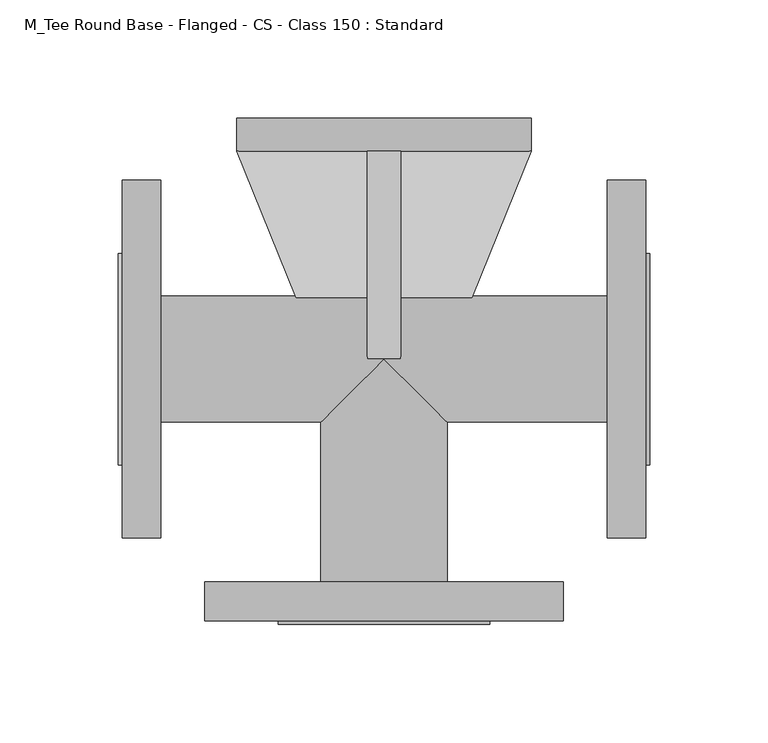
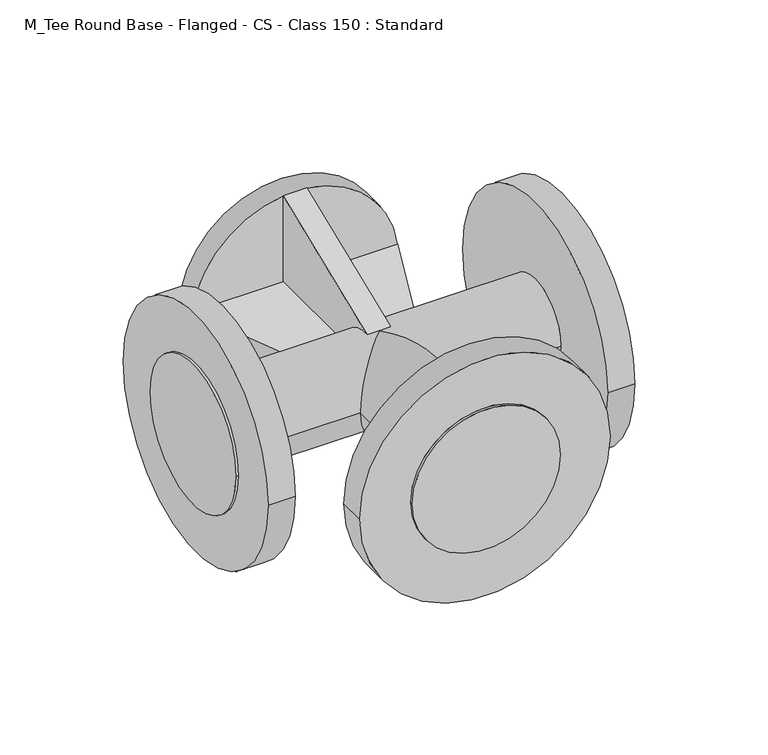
"""IFC4 building model written with IfcOpenShell, lengths in millimetres: pipe fitting geometry, M_Tee Round Base - Flanged - CS - Class 150 : Standard."""

from ifc_helpers import new_model, si_unit, frame, origin, place, context, project, spatial, circle_curve, ellipse_curve, source, transform, mapped, element, save
from ifc_brep_helpers import plane_surface, cylinder_surface, advanced_brep


def m_tee_round_base_flanged_cs_class_150_standard_ab36f383(model_context):
    return source(origin(), model_context, "Body", "AdvancedBrep", [
        advanced_brep(
        [(94.284375, -26.6988281, 0.0), (94.284375, 26.6988281, 0.0), (37.4728021, 26.6988281, 0.0), (37.0959493, 25.7649547, 6.9996094), (6.9996094, 25.7649547, 6.9996094), (6.9996094, 0.0, 26.6988281), (0.0, 0.0, 26.6988281), (26.6988281, -26.6988281, 0.0), (0.0, 0.0, -26.6988281), (6.9996094, 0.0, -26.6988281), (6.9996094, 25.7649547, -6.9996094), (37.0959493, 25.7649547, -6.9996094), (-94.284375, 26.6988281, 0.0), (-94.284375, -26.6988281, 0.0), (-26.6988281, -26.6988281, 0.0), (-6.9996094, 0.0, 26.6988281), (-6.9996094, 25.7649547, 6.9996094), (-37.0959493, 25.7649547, 6.9996094), (-37.4728021, 26.6988281, 0.0), (-37.0959493, 25.7649547, -6.9996094), (-6.9996094, 25.7649547, -6.9996094), (-6.9996094, 0.0, -26.6988281), (-110.6710937, -75.6433594, 0.0), (-110.6710937, 75.6433594, 0.0), (-110.6710937, 44.6714844, 0.0), (-110.6710937, -44.6714844, 0.0), (-94.284375, -75.6433594, 0.0), (-94.284375, 75.6433594, 0.0), (94.284375, -75.6433594, 0.0), (94.284375, 75.6433594, 0.0), (110.6710937, -75.6433594, 0.0), (110.6710937, 75.6433594, 0.0), (110.6710937, -44.6714844, 0.0), (110.6710937, 44.6714844, 0.0), (-112.2585937, 44.6714844, 0.0), (-112.2585937, -44.6714844, 0.0), (112.2585938, -44.6714844, 0.0), (112.2585938, 44.6714844, 0.0), (26.6988281, -94.284375, 0.0), (-26.6988281, -94.284375, 0.0), (-75.6433594, -94.284375, 0.0), (75.6433594, -94.284375, 0.0), (-75.6433594, -110.6710938, 0.0), (75.6433594, -110.6710938, 0.0), (-44.6714844, -110.6710938, 0.0), (44.6714844, -110.6710938, 0.0), (-44.6714844, -112.2585938, 0.0), (44.6714844, -112.2585938, 0.0), (-62.1347656, 87.8132812, 6.9996094), (-6.9996094, 87.8132812, 6.9996094), (-61.7392466, 87.8132812, 6.9996094), (62.1347656, 87.8132812, 6.9996094), (61.7392466, 87.8132812, 6.9996094), (6.9996094, 87.8132812, 6.9996094), (62.1347656, 87.8132812, -6.9996094), (6.9996094, 87.8132812, -6.9996094), (61.7392466, 87.8132812, -6.9996094), (-62.1347656, 87.8132812, -6.9996094), (-61.7392466, 87.8132812, -6.9996094), (-6.9996094, 87.8132812, -6.9996094), (-62.1347656, 87.8132812, 0.0), (62.1347656, 87.8132812, 0.0), (6.9996094, 87.8132812, -62.1347656), (0.0, 87.8132812, -62.1347656), (6.9996094, 87.8132812, -61.7392466), (-6.9996094, 87.8132812, -62.1347656), (-6.9996094, 87.8132812, -61.7392466), (6.9996094, 87.8132812, 62.1347656), (6.9996094, 87.8132812, 61.7392466), (0.0, 87.8132812, 62.1347656), (-6.9996094, 87.8132812, 61.7392466), (-6.9996094, 87.8132812, 62.1347656), (-62.1347656, 101.8125, 0.0), (62.1347656, 101.8125, 0.0)],
        [
            (0, 1, circle_curve(frame((94.284375, 0.0, 0.0), z_axis=(-1.0, 0.0, 0.0), x_axis=(0.0, 1.0, 0.0)), 26.6988281)),
            (1, 2),
            (2, 3, ellipse_curve(frame((26.6988281, 0.0, 0.0), z_axis=(0.9273412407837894, -0.37421681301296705, 0.0), x_axis=(-0.3742168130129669, -0.9273412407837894, 0.0)), 28.7907266, 26.6988281)),
            (3, 4),
            (4, 5, circle_curve(frame((6.9996094, 0.0, 0.0), z_axis=(1.0, 0.0, 0.0), x_axis=(0.0, 1.0, 0.0)), 26.6988281)),
            (5, 6),
            (6, 7, ellipse_curve(frame((0.0, 0.0, 0.0), z_axis=(0.7071067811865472, 0.7071067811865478, 0.0), x_axis=(-0.7071067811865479, 0.7071067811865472, 0.0)), 37.7578448, 26.6988281)),
            (7, 0),
            (1, 0, circle_curve(frame((94.284375, 0.0, 0.0), z_axis=(-1.0, 0.0, 0.0), x_axis=(0.0, 1.0, 0.0)), 26.6988281)),
            (7, 8, ellipse_curve(frame((0.0, 0.0, 0.0), z_axis=(0.7071067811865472, 0.7071067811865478, 0.0), x_axis=(-0.7071067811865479, 0.7071067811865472, 0.0)), 37.7578448, 26.6988281)),
            (8, 9),
            (9, 10, circle_curve(frame((6.9996094, 0.0, 0.0), z_axis=(1.0, 0.0, 0.0), x_axis=(0.0, 1.0, 0.0)), 26.6988281)),
            (10, 11),
            (11, 2, ellipse_curve(frame((26.6988281, 0.0, 0.0), z_axis=(0.9273412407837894, -0.37421681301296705, 0.0), x_axis=(-0.3742168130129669, -0.9273412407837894, 0.0)), 28.7907266, 26.6988281)),
            (12, 13, circle_curve(frame((-94.284375, 0.0, 0.0), z_axis=(1.0, 0.0, 0.0), x_axis=(0.0, 1.0, 0.0)), 26.6988281)),
            (13, 14),
            (14, 6, ellipse_curve(frame((0.0, 0.0, 0.0), z_axis=(-0.7071067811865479, 0.7071067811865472, 0.0), x_axis=(-0.707106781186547, -0.7071067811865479, 0.0)), 37.7578448, 26.6988281)),
            (6, 15),
            (15, 16, circle_curve(frame((-6.9996094, 0.0, 0.0), z_axis=(-1.0, 0.0, 0.0), x_axis=(0.0, 1.0, 0.0)), 26.6988281)),
            (16, 17),
            (17, 18, ellipse_curve(frame((-26.6988281, 0.0, 0.0), z_axis=(-0.9273412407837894, -0.374216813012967, 0.0), x_axis=(-0.374216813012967, 0.9273412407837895, 0.0)), 28.7907266, 26.6988281)),
            (18, 12),
            (13, 12, circle_curve(frame((-94.284375, 0.0, 0.0), z_axis=(1.0, 0.0, 0.0), x_axis=(0.0, 1.0, 0.0)), 26.6988281)),
            (18, 19, ellipse_curve(frame((-26.6988281, 0.0, 0.0), z_axis=(-0.9273412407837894, -0.374216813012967, 0.0), x_axis=(-0.374216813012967, 0.9273412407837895, 0.0)), 28.7907266, 26.6988281)),
            (19, 20),
            (20, 21, circle_curve(frame((-6.9996094, 0.0, 0.0), z_axis=(-1.0, 0.0, 0.0), x_axis=(0.0, 1.0, 0.0)), 26.6988281)),
            (21, 8),
            (8, 14, ellipse_curve(frame((0.0, 0.0, 0.0), z_axis=(-0.7071067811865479, 0.7071067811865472, 0.0), x_axis=(-0.707106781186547, -0.7071067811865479, 0.0)), 37.7578448, 26.6988281)),
            (22, 23, circle_curve(frame((-110.6710937, 0.0, 0.0), z_axis=(-1.0, 0.0, 0.0), x_axis=(0.0, 1.0, 0.0)), 75.6433594)),
            (23, 22, circle_curve(frame((-110.6710937, 0.0, 0.0), z_axis=(-1.0, 0.0, 0.0), x_axis=(0.0, 1.0, 0.0)), 75.6433594)),
            (24, 25, circle_curve(frame((-110.6710937, 0.0, 0.0), z_axis=(1.0, 0.0, 0.0), x_axis=(0.0, -1.0, 0.0)), 44.6714844)),
            (25, 24, circle_curve(frame((-110.6710937, 0.0, 0.0), z_axis=(1.0, 0.0, 0.0), x_axis=(0.0, -1.0, 0.0)), 44.6714844)),
            (26, 27, circle_curve(frame((-94.284375, 0.0, 0.0), z_axis=(1.0, 0.0, 0.0), x_axis=(0.0, 1.0, 0.0)), 75.6433594)),
            (27, 26, circle_curve(frame((-94.284375, 0.0, 0.0), z_axis=(1.0, 0.0, 0.0), x_axis=(0.0, 1.0, 0.0)), 75.6433594)),
            (22, 26),
            (27, 23),
            (28, 29, circle_curve(frame((94.284375, 0.0, 0.0), z_axis=(-1.0, 0.0, 0.0), x_axis=(0.0, 1.0, 0.0)), 75.6433594)),
            (29, 28, circle_curve(frame((94.284375, 0.0, 0.0), z_axis=(-1.0, 0.0, 0.0), x_axis=(0.0, 1.0, 0.0)), 75.6433594)),
            (30, 31, circle_curve(frame((110.6710937, 0.0, 0.0), z_axis=(1.0, 0.0, 0.0), x_axis=(0.0, 1.0, 0.0)), 75.6433594)),
            (31, 30, circle_curve(frame((110.6710937, 0.0, 0.0), z_axis=(1.0, 0.0, 0.0), x_axis=(0.0, 1.0, 0.0)), 75.6433594)),
            (32, 33, circle_curve(frame((110.6710937, 0.0, 0.0), z_axis=(-1.0, 0.0, 0.0), x_axis=(0.0, 1.0, 0.0)), 44.6714844)),
            (33, 32, circle_curve(frame((110.6710937, 0.0, 0.0), z_axis=(-1.0, 0.0, 0.0), x_axis=(0.0, 1.0, 0.0)), 44.6714844)),
            (28, 30),
            (31, 29),
            (34, 35, circle_curve(frame((-112.2585937, 0.0, 0.0), z_axis=(-1.0, 0.0, 0.0), x_axis=(0.0, -1.0, 0.0)), 44.6714844)),
            (35, 34, circle_curve(frame((-112.2585937, 0.0, 0.0), z_axis=(-1.0, 0.0, 0.0), x_axis=(0.0, -1.0, 0.0)), 44.6714844)),
            (35, 25),
            (24, 34),
            (36, 37, circle_curve(frame((112.2585938, 0.0, 0.0), z_axis=(1.0, 0.0, 0.0), x_axis=(0.0, 1.0, 0.0)), 44.6714844)),
            (37, 36, circle_curve(frame((112.2585938, 0.0, 0.0), z_axis=(1.0, 0.0, 0.0), x_axis=(0.0, 1.0, 0.0)), 44.6714844)),
            (37, 33),
            (32, 36),
            (38, 7),
            (14, 39),
            (39, 38, circle_curve(frame((0.0, -94.284375, 0.0), z_axis=(0.0, 1.0, 0.0), x_axis=(1.0, 0.0, 0.0)), 26.6988281)),
            (38, 39, circle_curve(frame((0.0, -94.284375, 0.0), z_axis=(0.0, 1.0, 0.0), x_axis=(1.0, 0.0, 0.0)), 26.6988281)),
            (40, 41, circle_curve(frame((0.0, -94.284375, 0.0), z_axis=(0.0, 1.0, 0.0), x_axis=(1.0, 0.0, 0.0)), 75.6433594)),
            (41, 40, circle_curve(frame((0.0, -94.284375, 0.0), z_axis=(0.0, 1.0, 0.0), x_axis=(1.0, 0.0, 0.0)), 75.6433594)),
            (42, 43, circle_curve(frame((0.0, -110.6710938, 0.0), z_axis=(0.0, -1.0, 0.0), x_axis=(1.0, 0.0, 0.0)), 75.6433594)),
            (43, 42, circle_curve(frame((0.0, -110.6710938, 0.0), z_axis=(0.0, -1.0, 0.0), x_axis=(1.0, 0.0, 0.0)), 75.6433594)),
            (44, 45, circle_curve(frame((0.0, -110.6710938, 0.0), z_axis=(0.0, 1.0, 0.0), x_axis=(1.0, 0.0, 0.0)), 44.6714844)),
            (45, 44, circle_curve(frame((0.0, -110.6710938, 0.0), z_axis=(0.0, 1.0, 0.0), x_axis=(1.0, 0.0, 0.0)), 44.6714844)),
            (40, 42),
            (43, 41),
            (46, 47, circle_curve(frame((0.0, -112.2585938, 0.0), z_axis=(0.0, -1.0, 0.0), x_axis=(1.0, 0.0, 0.0)), 44.6714844)),
            (47, 46, circle_curve(frame((0.0, -112.2585938, 0.0), z_axis=(0.0, -1.0, 0.0), x_axis=(1.0, 0.0, 0.0)), 44.6714844)),
            (47, 45),
            (44, 46),
            (48, 17),
            (16, 49),
            (49, 50),
            (50, 48),
            (3, 51),
            (51, 52),
            (52, 53),
            (53, 4),
            (54, 11),
            (10, 55),
            (55, 56),
            (56, 54),
            (19, 57),
            (57, 58),
            (58, 59),
            (59, 20),
            (50, 60, circle_curve(frame((0.0, 87.8132812, 0.0), z_axis=(0.0, -1.0, 0.0), x_axis=(1.0, 0.0, 0.0)), 62.1347656)),
            (60, 48),
            (51, 61),
            (61, 52, circle_curve(frame((0.0, 87.8132812, 0.0), z_axis=(0.0, -1.0, 0.0), x_axis=(1.0, 0.0, 0.0)), 62.1347656)),
            (56, 61, circle_curve(frame((0.0, 87.8132812, 0.0), z_axis=(0.0, -1.0, 0.0), x_axis=(1.0, 0.0, 0.0)), 62.1347656)),
            (61, 54),
            (57, 60),
            (60, 58, circle_curve(frame((0.0, 87.8132812, 0.0), z_axis=(0.0, -1.0, 0.0), x_axis=(1.0, 0.0, 0.0)), 62.1347656)),
            (62, 63),
            (63, 64, circle_curve(frame((0.0, 87.8132812, 0.0), z_axis=(0.0, -1.0, 0.0), x_axis=(1.0, 0.0, 0.0)), 62.1347656)),
            (64, 62),
            (63, 65),
            (65, 66),
            (66, 63, circle_curve(frame((0.0, 87.8132812, 0.0), z_axis=(0.0, -1.0, 0.0), x_axis=(1.0, 0.0, 0.0)), 62.1347656)),
            (67, 68),
            (68, 69, circle_curve(frame((0.0, 87.8132812, 0.0), z_axis=(0.0, -1.0, 0.0), x_axis=(1.0, 0.0, 0.0)), 62.1347656)),
            (69, 67),
            (70, 71),
            (71, 69),
            (69, 70, circle_curve(frame((0.0, 87.8132812, 0.0), z_axis=(0.0, -1.0, 0.0), x_axis=(1.0, 0.0, 0.0)), 62.1347656)),
            (67, 5),
            (53, 68),
            (9, 62),
            (64, 55),
            (65, 21),
            (59, 66),
            (15, 71),
            (70, 49),
            (72, 73, circle_curve(frame((0.0, 101.8125, 0.0), z_axis=(0.0, 1.0, 0.0), x_axis=(1.0, 0.0, 0.0)), 62.1347656)),
            (73, 72, circle_curve(frame((0.0, 101.8125, 0.0), z_axis=(0.0, 1.0, 0.0), x_axis=(1.0, 0.0, 0.0)), 62.1347656)),
            (52, 68, circle_curve(frame((0.0, 87.8132812, 0.0), z_axis=(0.0, -1.0, 0.0), x_axis=(1.0, 0.0, 0.0)), 62.1347656)),
            (64, 56, circle_curve(frame((0.0, 87.8132812, 0.0), z_axis=(0.0, -1.0, 0.0), x_axis=(1.0, 0.0, 0.0)), 62.1347656)),
            (58, 66, circle_curve(frame((0.0, 87.8132812, 0.0), z_axis=(0.0, -1.0, 0.0), x_axis=(1.0, 0.0, 0.0)), 62.1347656)),
            (70, 50, circle_curve(frame((0.0, 87.8132812, 0.0), z_axis=(0.0, -1.0, 0.0), x_axis=(1.0, 0.0, 0.0)), 62.1347656)),
            (72, 60),
            (61, 73),
        ],
        [
            cylinder_surface(frame((0.0, 0.0, 0.0), z_axis=(-1.0, 0.0, 0.0), x_axis=(0.0, 1.0, 0.0)), 26.6988281),
            cylinder_surface(frame((-94.284375, 0.0, 0.0), z_axis=(-1.0, 0.0, 0.0), x_axis=(0.0, 1.0, 0.0)), 26.6988281),
            plane_surface(frame((-110.6710937, 0.0, 0.0), z_axis=(-1.0, 0.0, 0.0), x_axis=(0.0, 0.0, 1.0))),
            plane_surface(frame((-94.284375, 0.0, 0.0), z_axis=(1.0, 0.0, 0.0), x_axis=(0.0, 0.0, 1.0))),
            cylinder_surface(frame((-110.6710937, 0.0, 0.0), z_axis=(-1.0, 0.0, 0.0), x_axis=(0.0, 1.0, 0.0)), 75.6433594),
            plane_surface(frame((94.284375, 0.0, 0.0), z_axis=(-1.0, 0.0, 0.0), x_axis=(0.0, 0.0, 1.0))),
            plane_surface(frame((110.6710937, 0.0, 0.0), z_axis=(1.0, 0.0, 0.0), x_axis=(0.0, 0.0, 1.0))),
            cylinder_surface(frame((94.284375, 0.0, 0.0), z_axis=(-1.0, 0.0, 0.0), x_axis=(0.0, 1.0, 0.0)), 75.6433594),
            plane_surface(frame((-112.2585937, 0.0, 0.0), z_axis=(-1.0, 0.0, 0.0), x_axis=(0.0, 0.0, 1.0))),
            cylinder_surface(frame((-110.6710937, 0.0, 0.0), z_axis=(1.0, 0.0, 0.0), x_axis=(0.0, -1.0, 0.0)), 44.6714844),
            plane_surface(frame((112.2585938, 0.0, 0.0), z_axis=(1.0, 0.0, 0.0), x_axis=(0.0, 0.0, 1.0))),
            cylinder_surface(frame((110.6710937, 0.0, 0.0), z_axis=(-1.0, 0.0, 0.0), x_axis=(0.0, 1.0, 0.0)), 44.6714844),
            cylinder_surface(frame((0.0, 0.0, 0.0), z_axis=(0.0, 1.0, 0.0), x_axis=(1.0, 0.0, 0.0)), 26.6988281),
            plane_surface(frame((0.0, -94.284375, 0.0), z_axis=(0.0, 1.0, 0.0), x_axis=(0.0, 0.0, 1.0))),
            plane_surface(frame((0.0, -110.6710938, 0.0), z_axis=(0.0, -1.0, 0.0), x_axis=(0.0, 0.0, 1.0))),
            cylinder_surface(frame((0.0, -94.284375, 0.0), z_axis=(0.0, 1.0, 0.0), x_axis=(1.0, 0.0, 0.0)), 75.6433594),
            plane_surface(frame((0.0, -112.2585938, 0.0), z_axis=(0.0, -1.0, 0.0), x_axis=(0.0, 0.0, 1.0))),
            cylinder_surface(frame((0.0, -110.6710938, 0.0), z_axis=(0.0, 1.0, 0.0), x_axis=(1.0, 0.0, 0.0)), 44.6714844),
            plane_surface(frame((-62.1347656, 87.8132812, 6.9996094), z_axis=(0.0, 0.0, 1.0), x_axis=(-1.0, 0.0, 0.0))),
            plane_surface(frame((-62.1347656, 87.8132812, -6.9996094), z_axis=(0.0, 0.0, -1.0), x_axis=(1.0, 0.0, 0.0))),
            plane_surface(frame((62.1347656, 87.8132812, 6.9996094), z_axis=(0.0, 1.0, 0.0), x_axis=(0.0, 0.0, -1.0))),
            plane_surface(frame((-62.1347656, 87.8132812, 6.9996094), z_axis=(-0.9273412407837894, -0.374216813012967, 0.0), x_axis=(0.0, 0.0, -1.0))),
            plane_surface(frame((26.6988281, 0.0, 6.9996094), z_axis=(0.9273412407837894, -0.37421681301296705, 0.0), x_axis=(0.0, 0.0, -1.0))),
            plane_surface(frame((6.9996094, 87.8132812, 62.1347656), z_axis=(1.0, 0.0, 0.0), x_axis=(0.0, 0.0, 1.0))),
            plane_surface(frame((-6.9996094, 87.8132812, 62.1347656), z_axis=(-1.0, 0.0, 0.0), x_axis=(0.0, 0.0, -1.0))),
            plane_surface(frame((6.9996094, 87.8132812, 62.1347656), z_axis=(0.0, -0.3742168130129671, 0.9273412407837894), x_axis=(-1.0, 0.0, 0.0))),
            plane_surface(frame((6.9996094, 0.0, -26.6988281), z_axis=(0.0, -0.37421681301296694, -0.9273412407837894), x_axis=(-1.0, 0.0, 0.0))),
            plane_surface(frame((0.0, 101.8125, 0.0), z_axis=(0.0, 1.0, 0.0), x_axis=(0.0, 0.0, 1.0))),
            plane_surface(frame((0.0, 87.8132812, 0.0), z_axis=(0.0, -1.0, 0.0), x_axis=(0.0, 0.0, 1.0))),
            cylinder_surface(frame((0.0, 101.8125, 0.0), z_axis=(0.0, 1.0, 0.0), x_axis=(1.0, 0.0, 0.0)), 62.1347656),
        ],
        [
            (0, [[1, 2, 3, 4, 5, 6, 7, 8]]),
            (0, [[9, -8, 10, 11, 12, 13, 14, -2]]),
            (1, [[15, 16, 17, 18, 19, 20, 21, 22]]),
            (1, [[23, -22, 24, 25, 26, 27, 28, -16]]),
            (2, [[29, 30], [31, 32]]),
            (3, [[33, 34], [-15, -23]]),
            (4, [[-29, 35, -34, 36]]),
            (4, [[-30, -36, -33, -35]]),
            (5, [[37, 38], [-1, -9]]),
            (6, [[39, 40], [41, 42]]),
            (7, [[-37, 43, -40, 44]]),
            (7, [[-38, -44, -39, -43]]),
            (8, [[45, 46]]),
            (9, [[-46, 47, -31, 48]]),
            (9, [[-45, -48, -32, -47]]),
            (10, [[49, 50]]),
            (11, [[-50, 51, -41, 52]]),
            (11, [[-49, -52, -42, -51]]),
            (12, [[53, -7, -17, 54, 55]]),
            (12, [[-53, 56, -54, -28, -10]]),
            (13, [[57, 58], [-55, -56]]),
            (14, [[59, 60], [61, 62]]),
            (15, [[-57, 63, -60, 64]]),
            (15, [[-58, -64, -59, -63]]),
            (16, [[65, 66]]),
            (17, [[-66, 67, -61, 68]]),
            (17, [[-65, -68, -62, -67]]),
            (18, [[69, -20, 70, 71, 72]]),
            (18, [[73, 74, 75, 76, -4]]),
            (19, [[77, -13, 78, 79, 80]]),
            (19, [[81, 82, 83, 84, -25]]),
            (20, [[-72, 85, 86]]),
            (20, [[-74, 87, 88]]),
            (20, [[-80, 89, 90]]),
            (20, [[-82, 91, 92]]),
            (20, [[93, 94, 95]]),
            (20, [[96, 97, 98]]),
            (20, [[99, 100, 101]]),
            (20, [[102, 103, 104]]),
            (21, [[-69, -86, -91, -81, -24, -21]]),
            (22, [[-73, -3, -14, -77, -90, -87]]),
            (23, [[105, -5, -76, 106, -99]]),
            (23, [[107, -95, 108, -78, -12]]),
            (24, [[109, -26, -84, 110, -97]]),
            (24, [[111, -102, 112, -70, -19]]),
            (25, [[-105, -101, -103, -111, -18, -6]]),
            (26, [[-107, -11, -27, -109, -96, -93]]),
            (27, [[113, 114]]),
            (28, [[115, -106, -75]]),
            (28, [[116, -79, -108]]),
            (28, [[117, -110, -83]]),
            (28, [[118, -71, -112]]),
            (29, [[-113, 119, -85, -118, -104, -100, -115, -88, 120]]),
            (29, [[-114, -120, -89, -116, -94, -98, -117, -92, -119]]),
        ],
    ),
    ])


if __name__ == "__main__":
    model = new_model("IFC4")
    model_context = context("Model", 3, world=origin())
    ifc_project = project(units=[si_unit("LENGTHUNIT", "METRE", prefix="MILLI")], contexts=[model_context])
    site = spatial("IfcSite", under=ifc_project)
    building = spatial("IfcBuilding", under=site)
    placement = place(None, origin())
    m_tee_round_base_flanged_cs_class_150_standard_shape = m_tee_round_base_flanged_cs_class_150_standard_ab36f383(model_context)
    element("IfcPipeFitting", 1, ObjectType="M_Tee Round Base - Flanged - CS - Class 150 : Standard", at=placement, inside=building, context=model_context, shape_type="MappedRepresentation", body=[
        mapped(m_tee_round_base_flanged_cs_class_150_standard_shape, transform((0.0, 0.0, 0.0), x_axis=(1.0, 0.0, 0.0), y_axis=(0.0, 1.0, 0.0), z_axis=(0.0, 0.0, 1.0))),
    ])
    save(model, "model.ifc")
